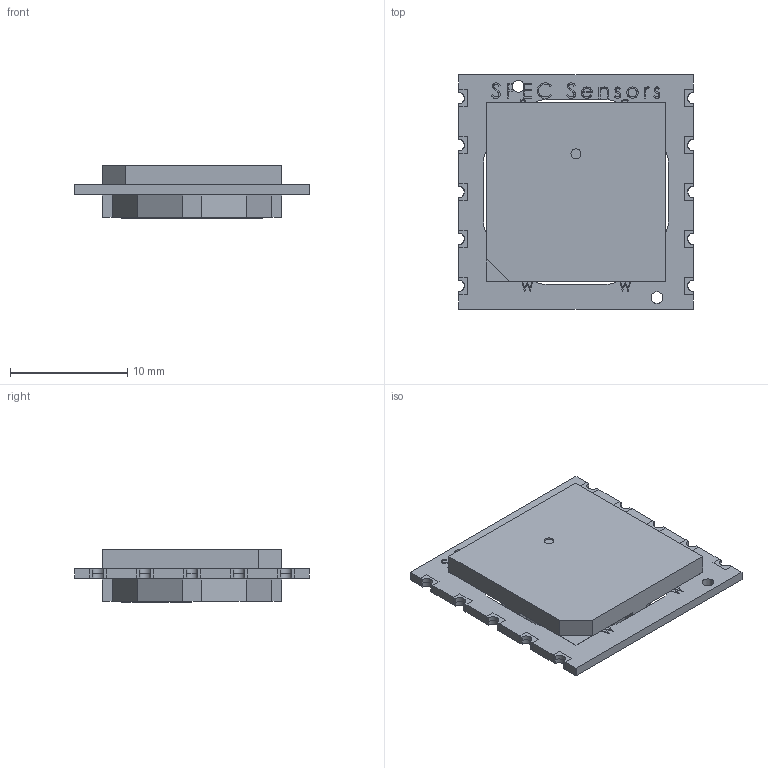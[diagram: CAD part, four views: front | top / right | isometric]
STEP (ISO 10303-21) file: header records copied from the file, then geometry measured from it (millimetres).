
FILE_DESCRIPTION (( 'STEP AP214' ), '1' );
FILE_NAME ('110-006 STEP.STEP', '2023-06-20T19:31:52', ( '' ), ( '' ), 'SwSTEP 2.0', 'SolidWorks 2017', '' );
FILE_SCHEMA (( 'AUTOMOTIVE_DESIGN' ));
Length unit declared in the file: millimetre
Products named in the file (4): 110-006 STEP; 981-014; 100-001 STEP; semicircle barcode label
Assembly tree (3 placements, depth 2):
  110-006 STEP
    100-001 STEP
    semicircle barcode label
    981-014
Bounding box: 20.01 x 20 x 4.51 mm (x, y, z)
Volume: 920.3 mm3; surface area: 1495.1 mm2
Topology: 32 solids, 32 shells, 582 faces, 1552 edges, 1040 vertices
Faces by surface type: plane 362, bspline 123, cylinder 97
Full cylindrical faces by diameter (mm): 0.35 x1, 0.75 x24, 0.85 x1, 1 x10
Entity records: 27536 total; most frequent: CARTESIAN_POINT 9291, ORIENTED_EDGE 3000, DIRECTION 2378, EDGE_CURVE 1500, VECTOR 1060, LINE 1060, VERTEX_POINT 1024, EDGE_LOOP 700
